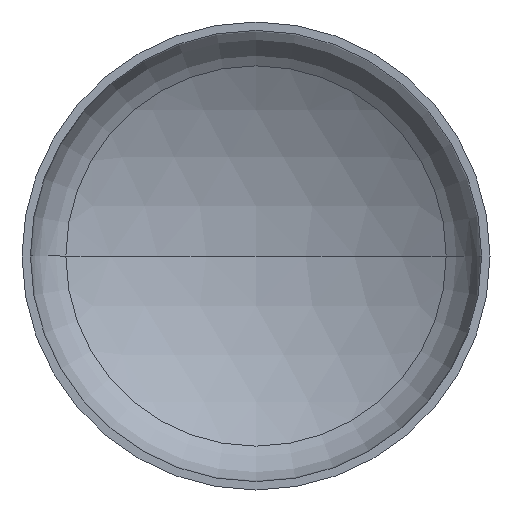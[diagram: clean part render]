
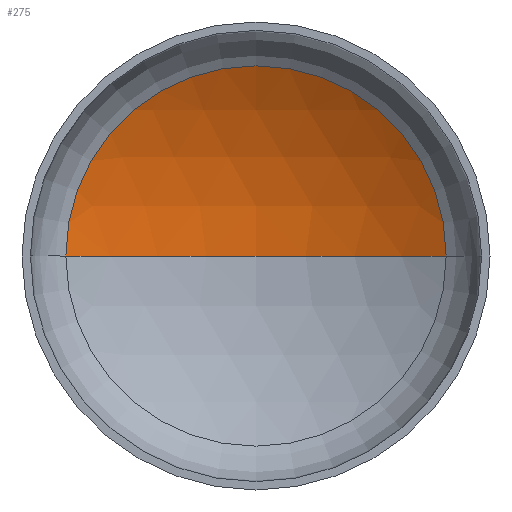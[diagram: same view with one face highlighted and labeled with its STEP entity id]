
A CAD part, front view. The second image highlights one B-rep face of the part: STEP entity #275.
In plain terms, the highlighted spherical face has radius 3200 mm.
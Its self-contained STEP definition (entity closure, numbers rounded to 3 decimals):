
#11 = AXIS2_PLACEMENT_3D ( 'NONE', #391, #247, #66 ) ;
#12 = AXIS2_PLACEMENT_3D ( 'NONE', #272, #76, #295 ) ;
#16 = AXIS2_PLACEMENT_3D ( 'NONE', #393, #249, #377 ) ;
#26 = AXIS2_PLACEMENT_3D ( 'NONE', #184, #201, #165 ) ;
#66 = DIRECTION ( 'NONE',  ( 1., 0., 0. ) ) ;
#73 = EDGE_LOOP ( 'NONE', ( #109, #99, #323 ) ) ;
#76 = DIRECTION ( 'NONE',  ( 0., 0., -1. ) ) ;
#83 = CIRCLE ( 'NONE', #12, 3200. ) ;
#91 = VERTEX_POINT ( 'NONE', #124 ) ;
#99 = ORIENTED_EDGE ( 'NONE', *, *, #337, .T. ) ;
#104 = VERTEX_POINT ( 'NONE', #253 ) ;
#109 = ORIENTED_EDGE ( 'NONE', *, *, #345, .F. ) ;
#124 = CARTESIAN_POINT ( 'NONE',  ( -1625.377, 649.76, 0. ) ) ;
#165 = DIRECTION ( 'NONE',  ( -1., 0., 0. ) ) ;
#184 = CARTESIAN_POINT ( 'NONE',  ( 0., -2106.714, 0. ) ) ;
#201 = DIRECTION ( 'NONE',  ( 0., 0., -1. ) ) ;
#203 = VERTEX_POINT ( 'NONE', #409 ) ;
#205 = FACE_OUTER_BOUND ( 'NONE', #73, .T. ) ;
#247 = DIRECTION ( 'NONE',  ( 0., 0., 1. ) ) ;
#249 = DIRECTION ( 'NONE',  ( 0., -1., 0. ) ) ;
#253 = CARTESIAN_POINT ( 'NONE',  ( 0., 1093.286, 0. ) ) ;
#254 = CIRCLE ( 'NONE', #11, 3200. ) ;
#272 = CARTESIAN_POINT ( 'NONE',  ( 0., -2106.714, 0. ) ) ;
#275 = ADVANCED_FACE ( 'NONE', ( #205 ), #397, .F. ) ;
#295 = DIRECTION ( 'NONE',  ( -1., 0., 0. ) ) ;
#318 = CIRCLE ( 'NONE', #16, 1625.377 ) ;
#323 = ORIENTED_EDGE ( 'NONE', *, *, #332, .T. ) ;
#332 = EDGE_CURVE ( 'NONE', #203, #91, #318, .T. ) ;
#337 = EDGE_CURVE ( 'NONE', #104, #203, #83, .T. ) ;
#345 = EDGE_CURVE ( 'NONE', #104, #91, #254, .T. ) ;
#377 = DIRECTION ( 'NONE',  ( 1., 0., 0. ) ) ;
#391 = CARTESIAN_POINT ( 'NONE',  ( 0., -2106.714, 0. ) ) ;
#393 = CARTESIAN_POINT ( 'NONE',  ( 0., 649.76, 0. ) ) ;
#397 = SPHERICAL_SURFACE ( 'NONE', #26, 3200. ) ;
#409 = CARTESIAN_POINT ( 'NONE',  ( 1625.377, 649.76, 0. ) ) ;
